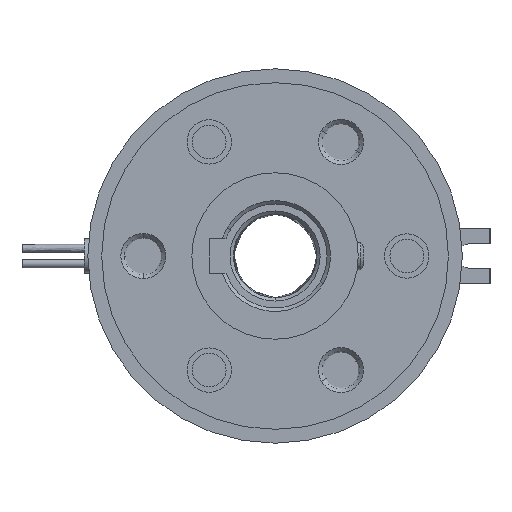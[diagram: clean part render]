
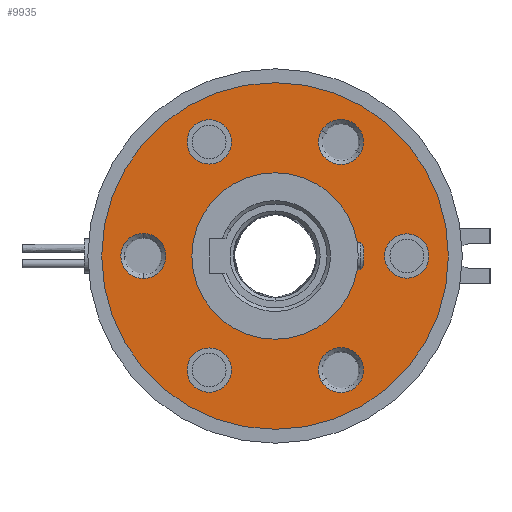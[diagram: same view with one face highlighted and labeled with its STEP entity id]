
A CAD part, left-side view. The second image highlights one B-rep face of the part: STEP entity #9935.
In plain terms, the highlighted planar face has unit normal (-1, 0, 0) as drawn and (0, 0, 1) by its records, which use the part's own axes.
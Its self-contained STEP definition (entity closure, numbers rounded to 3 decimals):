
#8699=CARTESIAN_POINT('',(-25.0,0.,3.0));
#8700=VERTEX_POINT('',#8699);
#8716=CARTESIAN_POINT('',(25.0,0.,3.0));
#8717=VERTEX_POINT('',#8716);
#8724=CARTESIAN_POINT('',(0.0,0.0,3.0));
#8725=DIRECTION('',(0.0,0.0,-1.0));
#8726=DIRECTION('',(-1.0,0.0,0.0));
#8727=AXIS2_PLACEMENT_3D('',#8724,#8725,#8726);
#8728=CIRCLE('',#8727,25.0);
#8729=EDGE_CURVE('',#8717,#8700,#8728,.T.);
#8739=CARTESIAN_POINT('',(-12.0,0.,3.0));
#8740=VERTEX_POINT('',#8739);
#8749=CARTESIAN_POINT('',(12.0,0.,3.0));
#8750=VERTEX_POINT('',#8749);
#8751=CARTESIAN_POINT('',(0.0,0.0,3.0));
#8752=DIRECTION('',(0.0,0.0,-1.0));
#8753=DIRECTION('',(-1.0,0.0,0.0));
#8754=AXIS2_PLACEMENT_3D('',#8751,#8752,#8753);
#8755=CIRCLE('',#8754,12.0);
#8756=EDGE_CURVE('',#8750,#8740,#8755,.T.);
#8885=CARTESIAN_POINT('',(-3.25,-19.0,3.0));
#8886=VERTEX_POINT('',#8885);
#8900=CARTESIAN_POINT('',(3.25,-19.0,3.0));
#8901=VERTEX_POINT('',#8900);
#8908=CARTESIAN_POINT('',(0.,-19.0,3.0));
#8909=DIRECTION('',(0.0,0.0,1.0));
#8910=DIRECTION('',(-1.0,0.0,0.0));
#8911=AXIS2_PLACEMENT_3D('',#8908,#8909,#8910);
#8912=CIRCLE('',#8911,3.25);
#8913=EDGE_CURVE('',#8901,#8886,#8912,.T.);
#8965=CARTESIAN_POINT('',(18.079,6.685,3.0));
#8966=VERTEX_POINT('',#8965);
#8980=CARTESIAN_POINT('',(14.829,12.315,3.0));
#8981=VERTEX_POINT('',#8980);
#8988=CARTESIAN_POINT('',(16.454,9.5,3.0));
#8989=DIRECTION('',(0.0,0.0,1.0));
#8990=DIRECTION('',(0.5,-0.866,0.0));
#8991=AXIS2_PLACEMENT_3D('',#8988,#8989,#8990);
#8992=CIRCLE('',#8991,3.25);
#8993=EDGE_CURVE('',#8981,#8966,#8992,.T.);
#9045=CARTESIAN_POINT('',(-14.829,12.315,3.0));
#9046=VERTEX_POINT('',#9045);
#9060=CARTESIAN_POINT('',(-18.079,6.685,3.0));
#9061=VERTEX_POINT('',#9060);
#9068=CARTESIAN_POINT('',(-16.454,9.5,3.0));
#9069=DIRECTION('',(0.0,0.0,1.0));
#9070=DIRECTION('',(0.5,0.866,0.0));
#9071=AXIS2_PLACEMENT_3D('',#9068,#9069,#9070);
#9072=CIRCLE('',#9071,3.25);
#9073=EDGE_CURVE('',#9061,#9046,#9072,.T.);
#9085=CARTESIAN_POINT('',(-19.654,-9.5,3.0));
#9086=VERTEX_POINT('',#9085);
#9102=CARTESIAN_POINT('',(-13.254,-9.5,3.0));
#9103=VERTEX_POINT('',#9102);
#9110=CARTESIAN_POINT('',(-16.454,-9.5,3.0));
#9111=DIRECTION('',(0.0,0.0,-1.0));
#9112=DIRECTION('',(-1.0,0.0,0.0));
#9113=AXIS2_PLACEMENT_3D('',#9110,#9111,#9112);
#9114=CIRCLE('',#9113,3.2);
#9115=EDGE_CURVE('',#9086,#9103,#9114,.T.);
#9127=CARTESIAN_POINT('',(1.6,21.771,3.0));
#9128=VERTEX_POINT('',#9127);
#9144=CARTESIAN_POINT('',(-1.6,16.229,3.));
#9145=VERTEX_POINT('',#9144);
#9152=CARTESIAN_POINT('',(0.,19.0,3.0));
#9153=DIRECTION('',(0.0,0.0,-1.));
#9154=DIRECTION('',(0.5,0.866,0.0));
#9155=AXIS2_PLACEMENT_3D('',#9152,#9153,#9154);
#9156=CIRCLE('',#9155,3.2);
#9157=EDGE_CURVE('',#9128,#9145,#9156,.T.);
#9169=CARTESIAN_POINT('',(18.054,-12.271,3.0));
#9170=VERTEX_POINT('',#9169);
#9186=CARTESIAN_POINT('',(14.854,-6.729,3.0));
#9187=VERTEX_POINT('',#9186);
#9194=CARTESIAN_POINT('',(16.454,-9.5,3.0));
#9195=DIRECTION('',(0.0,0.0,-1.));
#9196=DIRECTION('',(0.5,-0.866,0.0));
#9197=AXIS2_PLACEMENT_3D('',#9194,#9195,#9196);
#9198=CIRCLE('',#9197,3.2);
#9199=EDGE_CURVE('',#9170,#9187,#9198,.T.);
#9808=CARTESIAN_POINT('',(16.454,-9.5,3.0));
#9809=DIRECTION('',(0.0,0.0,-1.));
#9810=DIRECTION('',(0.5,-0.866,0.0));
#9811=AXIS2_PLACEMENT_3D('',#9808,#9809,#9810);
#9812=CIRCLE('',#9811,3.2);
#9813=EDGE_CURVE('',#9187,#9170,#9812,.T.);
#9826=CARTESIAN_POINT('',(0.,19.0,3.0));
#9827=DIRECTION('',(0.0,0.0,-1.));
#9828=DIRECTION('',(0.5,0.866,0.0));
#9829=AXIS2_PLACEMENT_3D('',#9826,#9827,#9828);
#9830=CIRCLE('',#9829,3.2);
#9831=EDGE_CURVE('',#9145,#9128,#9830,.T.);
#9844=CARTESIAN_POINT('',(-16.454,-9.5,3.0));
#9845=DIRECTION('',(0.0,0.0,-1.0));
#9846=DIRECTION('',(-1.0,0.0,0.0));
#9847=AXIS2_PLACEMENT_3D('',#9844,#9845,#9846);
#9848=CIRCLE('',#9847,3.2);
#9849=EDGE_CURVE('',#9103,#9086,#9848,.T.);
#9862=CARTESIAN_POINT('',(-16.454,9.5,3.0));
#9863=DIRECTION('',(0.0,0.0,1.0));
#9864=DIRECTION('',(0.5,0.866,0.0));
#9865=AXIS2_PLACEMENT_3D('',#9862,#9863,#9864);
#9866=CIRCLE('',#9865,3.25);
#9867=EDGE_CURVE('',#9046,#9061,#9866,.T.);
#9874=CARTESIAN_POINT('',(0.0,0.0,3.0));
#9875=DIRECTION('',(0.0,0.0,-1.0));
#9876=DIRECTION('',(-1.0,0.0,0.0));
#9877=AXIS2_PLACEMENT_3D('',#9874,#9875,#9876);
#9878=PLANE('',#9877);
#9879=ORIENTED_EDGE('',*,*,#8729,.F.);
#9880=CARTESIAN_POINT('',(0.0,0.0,3.0));
#9881=DIRECTION('',(0.0,0.0,-1.0));
#9882=DIRECTION('',(-1.0,0.0,0.0));
#9883=AXIS2_PLACEMENT_3D('',#9880,#9881,#9882);
#9884=CIRCLE('',#9883,25.0);
#9885=EDGE_CURVE('',#8700,#8717,#9884,.T.);
#9886=ORIENTED_EDGE('',*,*,#9885,.F.);
#9887=EDGE_LOOP('',(#9879,#9886));
#9888=FACE_OUTER_BOUND('',#9887,.T.);
#9889=ORIENTED_EDGE('',*,*,#9813,.T.);
#9890=ORIENTED_EDGE('',*,*,#9199,.T.);
#9891=EDGE_LOOP('',(#9889,#9890));
#9892=FACE_BOUND('',#9891,.T.);
#9893=ORIENTED_EDGE('',*,*,#9831,.T.);
#9894=ORIENTED_EDGE('',*,*,#9157,.T.);
#9895=EDGE_LOOP('',(#9893,#9894));
#9896=FACE_BOUND('',#9895,.T.);
#9897=ORIENTED_EDGE('',*,*,#9849,.T.);
#9898=ORIENTED_EDGE('',*,*,#9115,.T.);
#9899=EDGE_LOOP('',(#9897,#9898));
#9900=FACE_BOUND('',#9899,.T.);
#9901=ORIENTED_EDGE('',*,*,#8993,.F.);
#9902=CARTESIAN_POINT('',(16.454,9.5,3.0));
#9903=DIRECTION('',(0.0,0.0,1.0));
#9904=DIRECTION('',(0.5,-0.866,0.0));
#9905=AXIS2_PLACEMENT_3D('',#9902,#9903,#9904);
#9906=CIRCLE('',#9905,3.25);
#9907=EDGE_CURVE('',#8966,#8981,#9906,.T.);
#9908=ORIENTED_EDGE('',*,*,#9907,.F.);
#9909=EDGE_LOOP('',(#9901,#9908));
#9910=FACE_BOUND('',#9909,.T.);
#9911=ORIENTED_EDGE('',*,*,#8756,.T.);
#9912=CARTESIAN_POINT('',(0.0,0.0,3.0));
#9913=DIRECTION('',(0.0,0.0,-1.0));
#9914=DIRECTION('',(-1.0,0.0,0.0));
#9915=AXIS2_PLACEMENT_3D('',#9912,#9913,#9914);
#9916=CIRCLE('',#9915,12.0);
#9917=EDGE_CURVE('',#8740,#8750,#9916,.T.);
#9918=ORIENTED_EDGE('',*,*,#9917,.T.);
#9919=EDGE_LOOP('',(#9911,#9918));
#9920=FACE_BOUND('',#9919,.T.);
#9921=ORIENTED_EDGE('',*,*,#8913,.F.);
#9922=CARTESIAN_POINT('',(0.,-19.0,3.0));
#9923=DIRECTION('',(0.0,0.0,1.0));
#9924=DIRECTION('',(-1.0,0.0,0.0));
#9925=AXIS2_PLACEMENT_3D('',#9922,#9923,#9924);
#9926=CIRCLE('',#9925,3.25);
#9927=EDGE_CURVE('',#8886,#8901,#9926,.T.);
#9928=ORIENTED_EDGE('',*,*,#9927,.F.);
#9929=EDGE_LOOP('',(#9921,#9928));
#9930=FACE_BOUND('',#9929,.T.);
#9931=ORIENTED_EDGE('',*,*,#9073,.F.);
#9932=ORIENTED_EDGE('',*,*,#9867,.F.);
#9933=EDGE_LOOP('',(#9931,#9932));
#9934=FACE_BOUND('',#9933,.T.);
#9935=ADVANCED_FACE('',(#9888,#9892,#9896,#9900,#9910,#9920,#9930,#9934),#9878,.F.);
